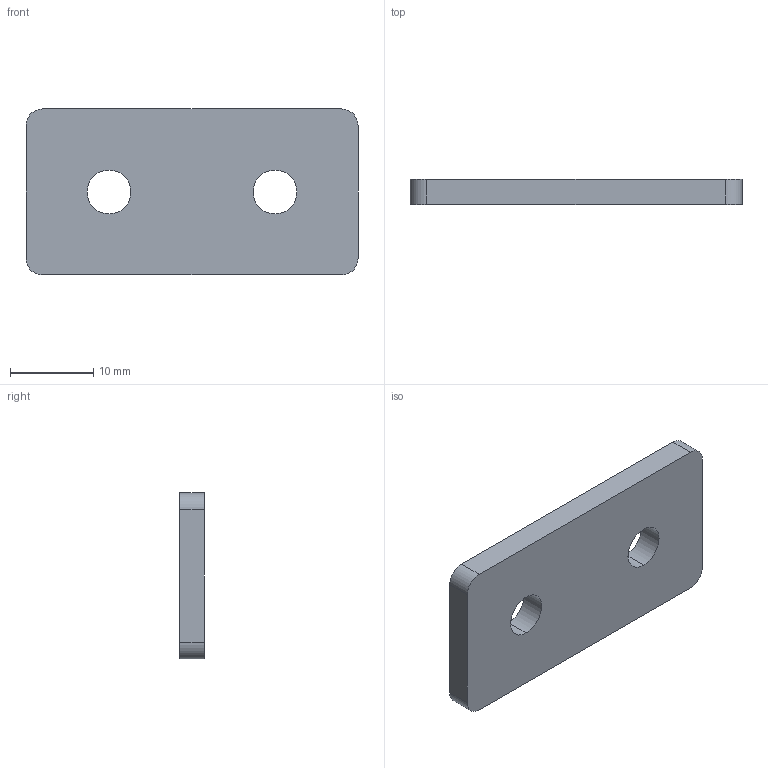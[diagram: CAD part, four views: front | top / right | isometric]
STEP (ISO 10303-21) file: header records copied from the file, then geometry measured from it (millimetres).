
FILE_DESCRIPTION (( 'STEP AP214' ), '1' );
FILE_NAME ('967-20-40-F-2-SW.step', '2023-06-26T09:08:01', ( '' ), ( '' ), 'SwSTEP 2.0', 'SolidWorks 2022', '' );
FILE_SCHEMA (( 'AUTOMOTIVE_DESIGN' ));
Length unit declared in the file: millimetre
Products named in the file (1): 967-20-40-F-2-SW
Bounding box: 40 x 3 x 20 mm (x, y, z)
Volume: 2257.3 mm3; surface area: 1954.5 mm2
Topology: 1 solids, 1 shells, 14 faces, 36 edges, 24 vertices
Faces by surface type: cylinder 8, plane 6
Entity records: 478 total; most frequent: DIRECTION 82, CARTESIAN_POINT 75, ORIENTED_EDGE 72, EDGE_CURVE 36, AXIS2_PLACEMENT_3D 31, VERTEX_POINT 24, LINE 20, VECTOR 20
